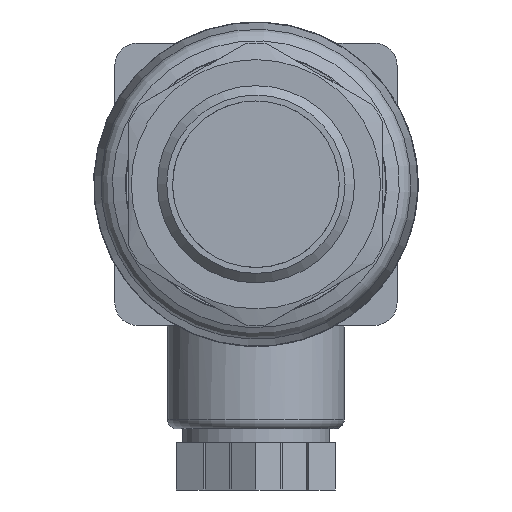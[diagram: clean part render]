
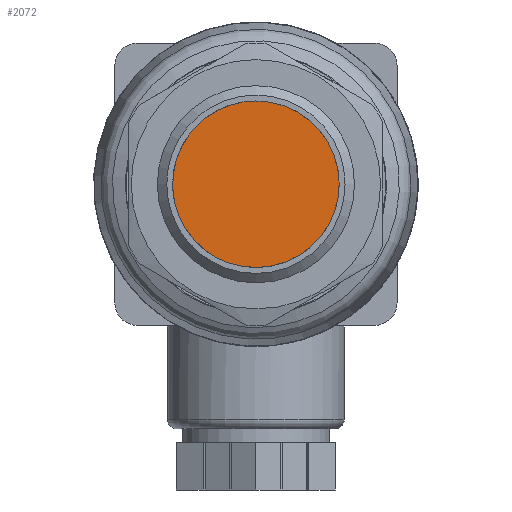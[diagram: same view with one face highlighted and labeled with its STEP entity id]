
A CAD part, left-side view. The second image highlights one B-rep face of the part: STEP entity #2072.
In plain terms, the highlighted planar face has unit normal (-1, 0, 0).
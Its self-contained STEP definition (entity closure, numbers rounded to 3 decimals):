
#218=FACE_OUTER_BOUND('',#355,.T.);
#355=EDGE_LOOP('',(#1635));
#496=CIRCLE('',#2248,8.85);
#965=VERTEX_POINT('',#3345);
#1209=EDGE_CURVE('',#965,#965,#496,.T.);
#1635=ORIENTED_EDGE('',*,*,#1209,.T.);
#1865=PLANE('',#2247);
#2072=ADVANCED_FACE('',(#218),#1865,.T.);
#2247=AXIS2_PLACEMENT_3D('',#3344,#2720,#2721);
#2248=AXIS2_PLACEMENT_3D('',#3346,#2722,#2723);
#2720=DIRECTION('center_axis',(-1.,0.,0.));
#2721=DIRECTION('ref_axis',(0.,-0.458,0.889));
#2722=DIRECTION('center_axis',(-1.,0.,0.));
#2723=DIRECTION('ref_axis',(0.,0.889,0.458));
#3344=CARTESIAN_POINT('Origin',(-69.53,7.615,3.921));
#3345=CARTESIAN_POINT('',(-69.53,7.868,4.052));
#3346=CARTESIAN_POINT('Origin',(-69.53,0.,
0.));
